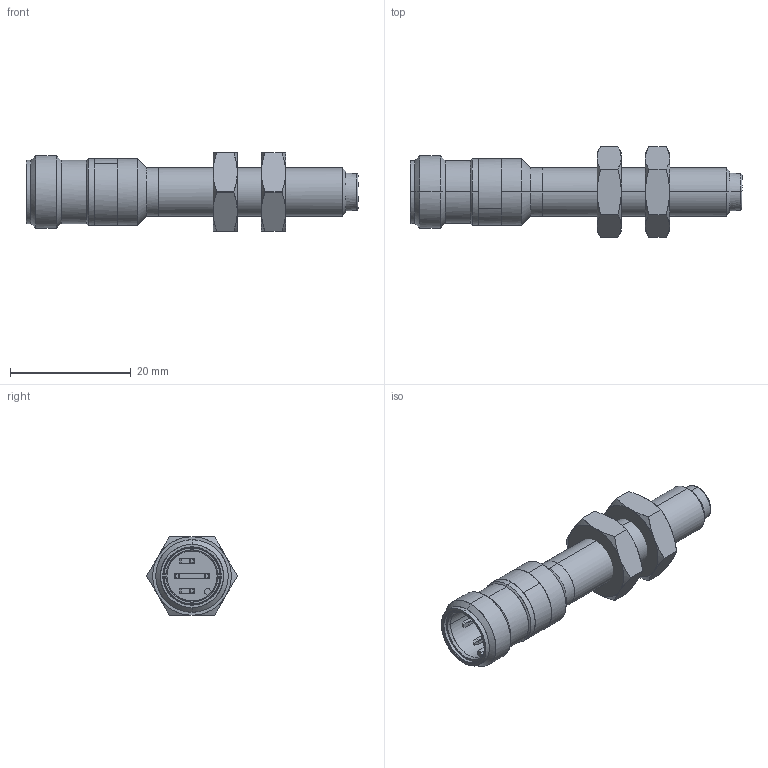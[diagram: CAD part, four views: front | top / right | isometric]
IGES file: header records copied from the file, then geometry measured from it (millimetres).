
Start section: Comment
Global section: file name: IFRR 08xx3T1_S14L-9.igs; native system:  By UGS Corp.; preprocessor: XPlus GENERIC/IGES 3.0; author: Author; organization: Title; date: 20100412.080613; units: millimetre
Bounding box: 55 x 15.01 x 13 mm (x, y, z)
Surface area: 3054.1 mm2 (no closed solid volume)
Topology: 0 solids, 0 shells, 172 faces, 846 edges, 846 vertices
Faces by surface type: bspline 172
